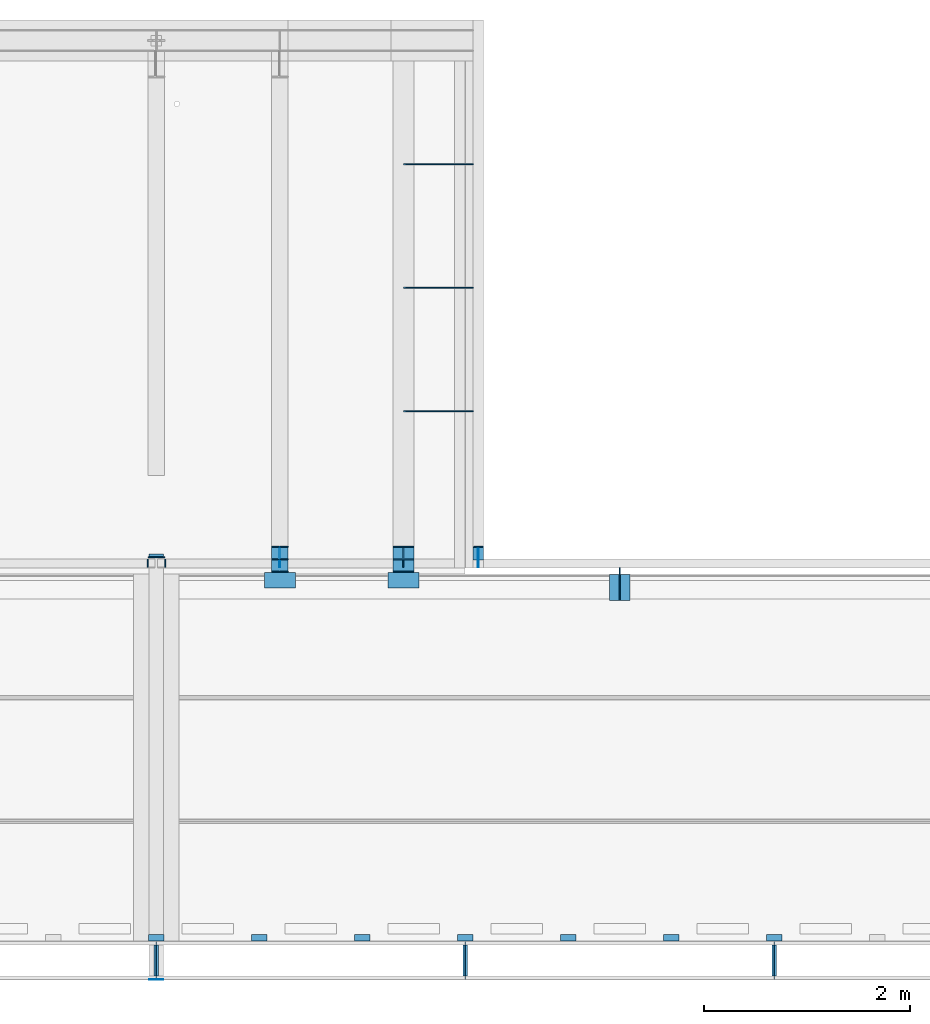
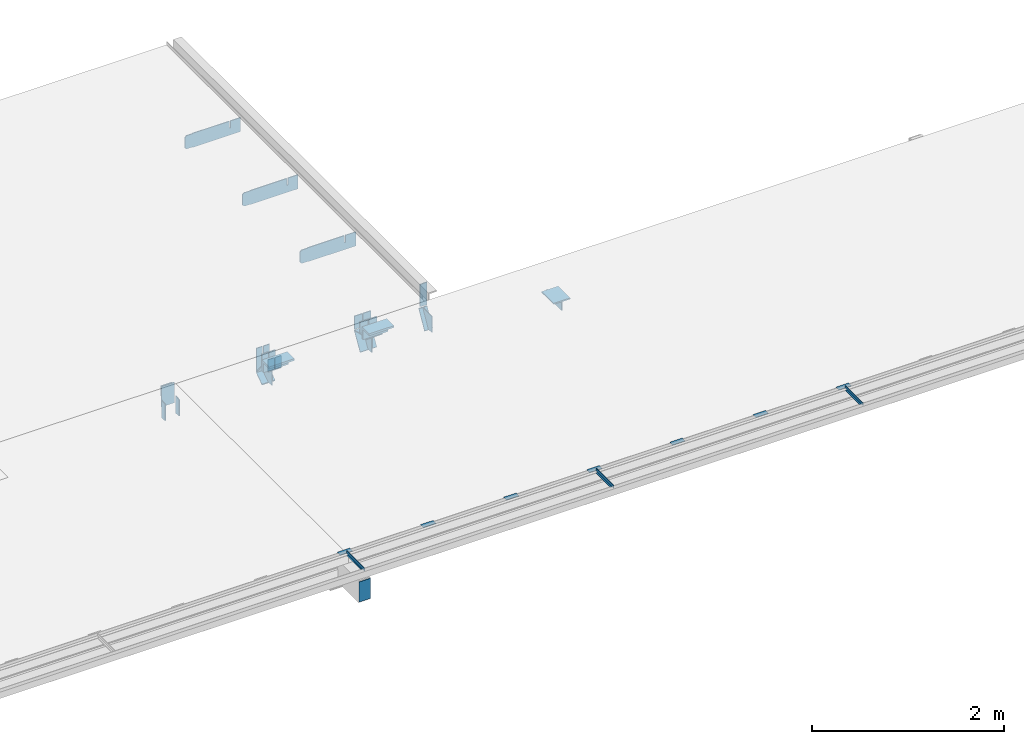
# One storey, part 4 of 13: 45 beams.
"""IFC2X3 building model written with IfcOpenShell, lengths in millimetres."""

from ifc_helpers import new_model, entity, si_unit, converted_unit, derived_unit, direction, frame, origin_with_axes, place, context, subcontext, project, spatial, faceted_brep, material, type_object, element, save


model = new_model("IFC2X3")

# Units and contexts
model_context = context("Model", 3, precision=0.01, world=frame((0.0, 4.29681676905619e-09, 0.0)), true_north=direction((4.01073788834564e-13, 1.0)))
plan_context = context("Plan", 3, precision=0.01, world=frame((0.0, 4.29681676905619e-09, 0.0)), true_north=direction((4.01073788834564e-13, 1.0)))
body_context = subcontext(model_context, "Body", "Model", "MODEL_VIEW")
ifc_project = project(units=[converted_unit("PLANEANGLEUNIT", "DEGREE", entity("IfcPositiveLengthMeasure", 0.0174532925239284), si_unit("PLANEANGLEUNIT", "RADIAN"), dimensions=[0, 0, 0, 0, 0, 0, 0]), si_unit("AREAUNIT", "SQUARE_METRE"), si_unit("LENGTHUNIT", "METRE", prefix="MILLI"), si_unit("MASSUNIT", "GRAM", prefix="KILO"), si_unit("POWERUNIT", "WATT"), si_unit("PRESSUREUNIT", "PASCAL", prefix="KILO"), si_unit("FORCEUNIT", "NEWTON", prefix="KILO"), si_unit("ELECTRICVOLTAGEUNIT", "VOLT"), si_unit("ELECTRICCURRENTUNIT", "AMPERE"), si_unit("THERMODYNAMICTEMPERATUREUNIT", "DEGREE_CELSIUS"), si_unit("TIMEUNIT", "SECOND"), si_unit("VOLUMEUNIT", "CUBIC_METRE"), derived_unit("LINEARVELOCITYUNIT", [(si_unit("LENGTHUNIT", "METRE"), 1), (si_unit("TIMEUNIT", "SECOND"), -1)]), derived_unit("VOLUMETRICFLOWRATEUNIT", [(si_unit("VOLUMEUNIT", "CUBIC_METRE"), 1), (si_unit("TIMEUNIT", "SECOND"), -1)]), derived_unit("THERMALTRANSMITTANCEUNIT", [(si_unit("POWERUNIT", "WATT"), 1), (si_unit("THERMODYNAMICTEMPERATUREUNIT", "KELVIN"), -1), (si_unit("AREAUNIT", "SQUARE_METRE"), -1)]), derived_unit("SOUNDPRESSUREUNIT", [(si_unit("PRESSUREUNIT", "PASCAL"), 1)])], contexts=[model_context, plan_context])

# Site, building, storey
site_placement = place(None, frame((0.0, -4.29681676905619e-09, 0.0), z_axis=(0.0, 0.0, 1.0), x_axis=(1.0, 0.0, 0.0)))
site = spatial("IfcSite", under=ifc_project, at=site_placement, Name="Gardermoen", CompositionType="ELEMENT")
building_placement = place(site_placement, frame((0.0, 4.29681676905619e-09, 0.0), z_axis=(0.0, 0.0, 1.0), x_axis=(1.0, 0.0, 0.0)))
building = spatial("IfcBuilding", under=site, at=building_placement, Name="TG", CompositionType="ELEMENT")
storey_placement = place(building_placement, origin_with_axes())
storey = spatial("IfcBuildingStorey", under=building, at=storey_placement, Name="G", CompositionType="ELEMENT", Elevation=0.0)

# Beams
ifc_material_1 = material(Name="STEEL/S355")
beam_type_1 = type_object("IfcBeamType", Name="PL10*110", PredefinedType="NOTDEFINED")
beam_1_placement = place(storey_placement, frame((335500.0, 462179.995625, 213170.0), z_axis=(0.0, 0.0, 1.0), x_axis=(0.0, -1.0, 0.0)))
element("IfcBeam", 1, at=beam_1_placement, inside=storey, type_object=beam_type_1, material=ifc_material_1, Name="STÅLBJELKE", ObjectType="PL10*110", context=body_context, shape_type="Brep", body=[
    faceted_brep([(5.82076609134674e-11, -5.0, 2.91038304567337e-11), (0.0, -5.0, 80.0), (0.0, 5.0, 80.0), (5.82076609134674e-11, 5.0, 2.91038304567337e-11), (65.0, -5.0, 80.0), (65.0, 5.0, 80.0), (65.0, -5.0, 110.0), (65.0, 5.0, 110.0), (315.0, -5.0, 110.0), (315.0, 5.0, 110.0), (315.0, -5.0, 0.0), (315.0, 5.0, 0.0)], [[[0, 1, 2, 3]], [[1, 4, 5, 2]], [[4, 6, 7, 5]], [[6, 8, 9, 7]], [[8, 10, 11, 9]], [[10, 0, 3, 11]], [[5, 7, 9, 11, 3, 2]], [[10, 8, 6, 4, 1, 0]]]),
])
ifc_material_2 = material(Name="STEEL/S355J0")
beam_type_2 = type_object("IfcBeamType", Name="PL5*140", PredefinedType="NOTDEFINED")
beam_2_placement = place(storey_placement, frame((331000.000872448, 458182.5, 213293.0), z_axis=(1.0, 0.0, 0.0), x_axis=(0.0, 0.0, 1.0)))
element("IfcBeam", 2, at=beam_2_placement, inside=storey, type_object=beam_type_2, material=ifc_material_2, Name="STÅLBJELKE", ObjectType="PL5*140", context=body_context, shape_type="Brep", body=[
    faceted_brep([(0.0, 2.5, -70.0), (0.0, 2.5, 70.0), (257.0, 2.5, 70.0), (257.0, 2.5, -70.0), (0.0, -2.5, 70.0), (257.0, -2.5, 70.0), (0.0, -2.5, -70.0), (257.0, -2.5, -70.0)], [[[0, 1, 2, 3]], [[1, 4, 5, 2]], [[4, 6, 7, 5]], [[6, 0, 3, 7]], [[5, 7, 3, 2]], [[6, 4, 1, 0]]]),
])
beam_type_3 = type_object("IfcBeamType", Name="PL100*10", PredefinedType="NOTDEFINED")
beam_3_placement = place(storey_placement, frame((334124.999765, 462260.648342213, 213162.470047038), z_axis=(1.0, 0.0, 0.0), x_axis=(0.0, 0.494009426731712, 0.86945654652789)))
element("IfcBeam", 3, at=beam_3_placement, inside=storey, type_object=beam_type_3, material=ifc_material_1, Name="STÅLBJELKE", ObjectType="PL100*10", context=body_context, shape_type="Brep", body=[
    faceted_brep([(8.34678317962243, -0.257509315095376, 50.0), (8.34678317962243, -0.257509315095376, -50.0), (9.64064383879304e-10, -5.0, -50.0000000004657), (-1.04409991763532e-09, -5.0, 50.0000000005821), (5.89175414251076, 5.00000000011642, 50.0), (5.89175414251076, 5.00000000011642, -50.0), (253.031621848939, -5.00000000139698, 50.0), (253.031621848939, -5.00000000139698, -50.0), (247.349803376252, 4.99999999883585, -50.0), (247.349803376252, 4.99999999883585, 50.0)], [[[0, 1, 2, 3]], [[4, 5, 1, 0]], [[6, 7, 8, 9]], [[7, 6, 3, 2]], [[8, 7, 2, 1, 5]], [[9, 8, 5, 4]], [[6, 9, 4, 0, 3]]]),
])
beam_type_4 = type_object("IfcBeamType", Name="PL10*179", PredefinedType="NOTDEFINED")
for number, where, z_axis, x_axis in (
    (4, (333499.999765, 463700.004375, 213380.0), (0.0, 0.0, 1.0), (1.0, 0.0, 0.0)),
    (5, (333499.999765, 464900.004375, 213380.0), (0.0, 0.0, 1.0), (1.0, 0.0, 0.0)),
    (6, (333499.999765, 466100.004375, 213380.0), (0.0, 0.0, 1.0), (1.0, 0.0, 0.0)),
):
    element("IfcBeam", number, at=place(storey_placement, frame(where, z_axis=z_axis, x_axis=x_axis)), inside=storey, type_object=beam_type_4, material=ifc_material_1, Name="STÅLBJELKE", ObjectType="PL10*179", context=body_context, shape_type="Brep", body=[
        faceted_brep([(439.5, -5.0, 179.0), (439.5, -5.0, 90.0), (439.5, 5.0, 90.0), (439.5, 5.0, 179.0), (450.5, -5.0, 90.0), (450.5, 5.0, 90.0), (450.5, -5.0, 179.0), (450.5, 5.0, 179.0), (0.0, -5.0, 175.0), (0.0, -5.0, 179.0), (0.0, 5.0, 179.0), (0.0, 5.0, 175.0), (-75.5, -5.0, 175.0), (-75.5, 5.0, 175.0), (-95.5, -5.0, 155.0), (-95.5, 5.0, 155.0), (-95.5, -5.0, 25.0), (-95.5, 5.0, 25.0), (-75.5, -5.0, 5.0), (-75.5, 5.0, 5.0), (0.0, -5.0, 5.0), (0.0, 5.0, 5.0), (5.82076609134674e-11, -5.0, 2.91038304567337e-11), (5.82076609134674e-11, 5.0, 2.91038304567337e-11), (575.0, -5.0, 0.0), (575.0, 5.0, 0.0), (575.0, -5.0, 179.0), (575.0, 5.0, 179.0), (395.0, -5.0, 179.0), (495.0, -5.0, 179.0), (395.0, 5.0, 179.0), (495.0, 5.0, 179.0)], [[[0, 1, 2, 3]], [[4, 5, 2, 1]], [[6, 7, 5, 4]], [[8, 9, 10, 11]], [[12, 8, 11, 13]], [[14, 12, 13, 15]], [[16, 14, 15, 17]], [[18, 16, 17, 19]], [[20, 18, 19, 21]], [[22, 20, 21, 23]], [[24, 22, 23, 25]], [[26, 24, 25, 27]], [[1, 0, 28, 9, 8, 12, 14, 16, 18, 20, 22, 24, 26, 29, 6, 4]], [[30, 10, 9, 28, 0, 3]], [[31, 27, 25, 23, 21, 19, 17, 15, 13, 11, 10, 30, 3, 2, 5, 7]], [[29, 26, 27, 31, 7, 6]]]),
    ])
beam_type_5 = type_object("IfcBeamType", Name="PL200*10", PredefinedType="NOTDEFINED")
beam_4_placement = place(storey_placement, frame((333399.999765, 462260.699160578, 213162.557419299), z_axis=(1.0, 0.0, 0.0), x_axis=(0.0, 0.511483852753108, 0.859292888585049)))
element("IfcBeam", 7, at=beam_4_placement, inside=storey, type_object=beam_type_5, material=ifc_material_1, Name="STÅLBJELKE", ObjectType="PL200*10", context=body_context, shape_type="Brep", body=[
    faceted_brep([(8.24921168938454, -0.0897550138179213, 100.0), (8.24921168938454, -0.0897550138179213, -100.0), (0.0, -5.0, -100.0), (0.0, -5.0, 100.0), (5.74597768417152, 5.0, 100.0), (5.74597768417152, 5.0, -100.0), (244.386986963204, -5.00000000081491, 100.0), (244.386986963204, -5.00000000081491, -100.0), (238.43460612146, 4.99999999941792, -100.0), (238.43460612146, 4.99999999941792, 100.0)], [[[0, 1, 2, 3]], [[4, 5, 1, 0]], [[6, 7, 8, 9]], [[7, 6, 3, 2]], [[8, 7, 2, 1, 5]], [[9, 8, 5, 4]], [[6, 9, 4, 0, 3]]]),
])
beam_5_placement = place(storey_placement, frame((333399.999765, 462266.257734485, 213404.838086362), z_axis=(1.0, 0.0, 0.0), x_axis=(0.0, 0.967617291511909, -0.252421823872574)))
element("IfcBeam", 8, at=beam_5_placement, inside=storey, type_object=beam_type_5, material=ifc_material_1, Name="STÅLBJELKE", ObjectType="PL200*10", context=body_context, shape_type="Brep", body=[
    faceted_brep([(-1.28288105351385, 5.00000000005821, -100.0), (-1.28288105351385, 5.00000000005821, 100.0), (116.2399456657, 4.99999999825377, 100.0), (116.2399456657, 4.99999999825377, -100.0), (0.0, -5.0, 100.0), (118.848640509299, -5.00000000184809, 100.0), (0.0, -5.0, -100.0), (118.848640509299, -5.00000000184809, -100.0)], [[[0, 1, 2, 3]], [[1, 4, 5, 2]], [[4, 6, 7, 5]], [[6, 0, 3, 7]], [[5, 7, 3, 2]], [[6, 4, 1, 0]]]),
])
beam_6_placement = place(storey_placement, frame((333399.999765, 462137.995625, 213405.0), z_axis=(1.0, 0.0, 0.0), x_axis=(0.0, 1.0, 0.0)))
element("IfcBeam", 9, at=beam_6_placement, inside=storey, type_object=beam_type_5, material=ifc_material_1, Name="STÅLBJELKE", ObjectType="PL200*10", context=body_context, shape_type="Brep", body=[
    faceted_brep([(0.0, 5.0, -100.0), (0.0, 5.0, 100.0), (128.282880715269, 5.0, 100.0), (128.282880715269, 5.0, -100.0), (0.0, -5.0, 100.0), (127.000000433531, -5.0, 100.0), (0.0, -5.0, -100.0), (127.000000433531, -5.0, -100.0)], [[[0, 1, 2, 3]], [[1, 4, 5, 2]], [[4, 6, 7, 5]], [[6, 0, 3, 7]], [[5, 7, 3, 2]], [[6, 4, 1, 0]]]),
])
beam_type_6 = type_object("IfcBeamType", Name="PL170*10", PredefinedType="NOTDEFINED")
for number, where, z_axis, x_axis in (
    (10, (333395.499765, 462384.995625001, 213470.0), (0.0, 0.0, 1.0), (-1.0, 0.0, 0.0)),
    (11, (333404.500703, 462384.995625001, 213470.0), (0.0, 0.0, 1.0), (1.0, 0.0, 0.0)),
):
    element("IfcBeam", number, at=place(storey_placement, frame(where, z_axis=z_axis, x_axis=x_axis)), inside=storey, type_object=beam_type_6, material=ifc_material_1, Name="STÅLBJELKE", ObjectType="PL170*10", context=body_context, shape_type="Brep", body=[
        faceted_brep([(0.0, 5.0, -85.0), (0.0, 5.0, 85.0), (95.4990620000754, 5.0, 85.0), (95.4990620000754, 5.0, -85.0), (0.0, -5.0, 85.0), (95.4990620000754, -5.0, 85.0), (0.0, -5.0, -85.0), (95.4990620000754, -5.0, -85.0)], [[[0, 1, 2, 3]], [[1, 4, 5, 2]], [[4, 6, 7, 5]], [[6, 0, 3, 7]], [[5, 7, 3, 2]], [[6, 4, 1, 0]]]),
    ])
beam_type_7 = type_object("IfcBeamType", Name="PL145*10", PredefinedType="NOTDEFINED")
for number, where, z_axis, x_axis in (
    (12, (333395.499765, 462264.895625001, 213482.5), (0.0, 0.0, 1.0), (-1.0, 0.0, 0.0)),
    (13, (333395.499765, 462142.994375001, 213482.5), (0.0, 0.0, 1.0), (-1.0, 0.0, 0.0)),
    (14, (333404.500703, 462264.895625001, 213482.5), (0.0, 0.0, 1.0), (1.0, 0.0, 0.0)),
    (15, (333404.500703, 462142.994375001, 213482.5), (0.0, 0.0, 1.0), (1.0, 0.0, 0.0)),
):
    element("IfcBeam", number, at=place(storey_placement, frame(where, z_axis=z_axis, x_axis=x_axis)), inside=storey, type_object=beam_type_7, material=ifc_material_1, Name="STÅLBJELKE", ObjectType="PL145*10", context=body_context, shape_type="Brep", body=[
        faceted_brep([(0.0, 5.0, -72.5), (0.0, 5.0, 72.5), (95.4990620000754, 5.0, 72.5), (95.4990620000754, 5.0, -72.5), (0.0, -5.0, 72.5), (95.4990620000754, -5.0, 72.5), (0.0, -5.0, -72.5), (95.4990620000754, -5.0, -72.5)], [[[0, 1, 2, 3]], [[1, 4, 5, 2]], [[4, 6, 7, 5]], [[6, 0, 3, 7]], [[5, 7, 3, 2]], [[6, 4, 1, 0]]]),
    ])
beam_type_8 = type_object("IfcBeamType", Name="PL10*189", PredefinedType="NOTDEFINED")
beam_7_placement = place(storey_placement, frame((333399.999765, 462378.358147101, 213370.0), z_axis=(0.0, 0.0, -1.0), x_axis=(0.0, -1.0, 0.0)))
element("IfcBeam", 16, at=beam_7_placement, inside=storey, type_object=beam_type_8, material=ifc_material_1, Name="STÅLBJELKE", ObjectType="PL10*189", context=body_context, shape_type="Brep", body=[
    faceted_brep([(5.82076609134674e-11, -5.0, 2.91038304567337e-11), (119.016479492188, -5.0, 199.947677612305), (119.016479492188, 5.0, 199.947677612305), (5.82076609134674e-11, 5.0, 2.91038304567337e-11), (188.862518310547, -5.0, 194.360000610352), (188.862518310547, 5.0, 194.360000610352), (188.862518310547, -5.0, 0.0), (188.862518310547, 5.0, 0.0)], [[[0, 1, 2, 3]], [[1, 4, 5, 2]], [[4, 6, 7, 5]], [[6, 0, 3, 7]], [[5, 7, 3, 2]], [[6, 4, 1, 0]]]),
])
beam_type_9 = type_object("IfcBeamType", Name="L150*150*25", PredefinedType="NOTDEFINED")
for number, where, z_axis, x_axis in (
    (17, (333549.999765, 462062.995625, 213510.0), (0.0, 0.0, -1.0), (-1.0, 0.0, 0.0)),
    (18, (332349.999765, 462062.995625, 213510.0), (0.0, 0.0, -1.0), (-1.0, 0.0, 0.0)),
):
    element("IfcBeam", number, at=place(storey_placement, frame(where, z_axis=z_axis, x_axis=x_axis)), inside=storey, type_object=beam_type_9, material=ifc_material_1, Name="STÅLBJELKE", ObjectType="L150*150*25", context=body_context, shape_type="Brep", body=[
        faceted_brep([(0.0, 75.0, -75.0), (0.0, 75.0, 75.0), (300.0, 75.0, 75.0), (300.0, 75.0, -75.0), (0.0, 50.0, 75.0), (300.0, 50.0, 75.0), (0.0, 50.0, -50.0), (300.0, 50.0, -50.0), (0.0, -75.0, -50.0), (300.0, -75.0, -50.0), (0.0, -75.0, -75.0), (300.0, -75.0, -75.0)], [[[0, 1, 2, 3]], [[1, 4, 5, 2]], [[4, 6, 7, 5]], [[6, 8, 9, 7]], [[8, 10, 11, 9]], [[10, 0, 3, 11]], [[5, 7, 9, 11, 3, 2]], [[10, 8, 6, 4, 1, 0]]]),
    ])
beam_type_10 = type_object("IfcBeamType", Name="PL160*10", PredefinedType="NOTDEFINED")
beam_8_placement = place(storey_placement, frame((332199.999765, 462137.995625, 213405.0), z_axis=(1.0, 0.0, 0.0), x_axis=(0.0, 1.0, 0.0)))
element("IfcBeam", 19, at=beam_8_placement, inside=storey, type_object=beam_type_10, material=ifc_material_1, Name="STÅLBJELKE", ObjectType="PL160*10", context=body_context, shape_type="Brep", body=[
    faceted_brep([(0.0, 5.0, -80.0), (0.0, 5.0, 80.0), (131.903864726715, 5.0, 80.0), (131.903864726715, 5.0, -80.0), (0.0, -5.0, 80.0), (127.000000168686, -5.0, 80.0), (0.0, -5.0, -80.0), (127.000000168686, -5.0, -80.0)], [[[0, 1, 2, 3]], [[1, 4, 5, 2]], [[4, 6, 7, 5]], [[6, 0, 3, 7]], [[5, 7, 3, 2]], [[6, 4, 1, 0]]]),
])
beam_9_placement = place(storey_placement, frame((332199.999765, 462262.140302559, 213164.104526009), z_axis=(1.0, 0.0, 0.0), x_axis=(0.0, 0.820905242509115, 0.57106442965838)))
element("IfcBeam", 20, at=beam_9_placement, inside=storey, type_object=beam_type_10, material=ifc_material_1, Name="STÅLBJELKE", ObjectType="PL160*10", context=body_context, shape_type="Brep", body=[
    faceted_brep([(6.95652103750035, 5.0, -80.0), (6.95652103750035, 5.0, 80.0), (147.045771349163, 4.99999999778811, 80.0), (147.045771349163, 4.99999999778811, -80.0), (0.0, -5.0, 80.0), (140.089250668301, -5.00000000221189, 80.0), (0.0, -5.0, -80.0), (140.089250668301, -5.00000000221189, -80.0)], [[[0, 1, 2, 3]], [[1, 4, 5, 2]], [[4, 6, 7, 5]], [[6, 0, 3, 7]], [[5, 7, 3, 2]], [[6, 4, 1, 0]]]),
])
beam_10_placement = place(storey_placement, frame((332199.999765, 462268.948827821, 213403.061402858), z_axis=(1.0, 0.0, 0.0), x_axis=(0.0, 0.612280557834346, -0.79064057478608)))
element("IfcBeam", 21, at=beam_10_placement, inside=storey, type_object=beam_type_10, material=ifc_material_1, Name="STÅLBJELKE", ObjectType="PL160*10", context=body_context, shape_type="Brep", body=[
    faceted_brep([(-4.90386462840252, 4.99999999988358, -80.0), (-4.90386462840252, 4.99999999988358, 80.0), (174.909349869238, 5.00000000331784, 80.0), (174.909349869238, 5.00000000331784, -80.0), (0.0, -5.0, 80.0), (187.822393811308, -4.99999999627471, 80.0), (0.0, -5.0, -80.0), (187.822393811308, -4.99999999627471, -80.0)], [[[0, 1, 2, 3]], [[1, 4, 5, 2]], [[4, 6, 7, 5]], [[6, 0, 3, 7]], [[5, 7, 3, 2]], [[6, 4, 1, 0]]]),
])
beam_type_11 = type_object("IfcBeamType", Name="PL307*10", PredefinedType="NOTDEFINED")
for number, where, z_axis, x_axis in (
    (22, (332196.249765, 462384.995625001, 213405.0), (0.0, 0.0, 1.0), (-1.0, 0.0, 0.0)),
    (23, (332203.750703, 462384.995625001, 213405.0), (0.0, 0.0, 1.0), (1.0, 0.0, 0.0)),
):
    element("IfcBeam", number, at=place(storey_placement, frame(where, z_axis=z_axis, x_axis=x_axis)), inside=storey, type_object=beam_type_11, material=ifc_material_1, Name="STÅLBJELKE", ObjectType="PL307*10", context=body_context, shape_type="Brep", body=[
        faceted_brep([(0.0, 5.0, -153.5), (0.0, 5.0, 153.5), (76.2490620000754, 5.0, 153.5), (76.2490620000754, 5.0, -153.5), (0.0, -5.0, 153.5), (76.2490620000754, -5.0, 153.5), (0.0, -5.0, -153.5), (76.2490620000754, -5.0, -153.5)], [[[0, 1, 2, 3]], [[1, 4, 5, 2]], [[4, 6, 7, 5]], [[6, 0, 3, 7]], [[5, 7, 3, 2]], [[6, 4, 1, 0]]]),
    ])
beam_type_12 = type_object("IfcBeamType", Name="PL8*190", PredefinedType="NOTDEFINED")
beam_11_placement = place(storey_placement, frame((332199.999765, 462189.495625, 213384.36), z_axis=(0.0, 1.0, 0.0), x_axis=(0.0, 0.0, -1.0)))
element("IfcBeam", 24, at=beam_11_placement, inside=storey, type_object=beam_type_12, material=ifc_material_1, Name="STÅLBJELKE", ObjectType="PL8*190", context=body_context, shape_type="Brep", body=[
    faceted_brep([(0.0, -4.0, 0.0), (-6.03999996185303, -4.0, 75.5), (-6.03999996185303, 4.0, 75.5), (0.0, 4.0, 0.0), (-15.6400003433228, -4.0, 75.5), (-15.6400003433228, 4.0, 75.5), (132.4169921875, -4.0, 190.156936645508), (132.4169921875, 4.0, 190.156936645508), (212.178329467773, -4.0, 75.5), (212.178329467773, 4.0, 75.5), (214.759994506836, -4.0, 75.5), (214.759994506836, 4.0, 75.5), (208.720001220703, -4.0, 0.0), (208.720001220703, 4.0, 0.0)], [[[0, 1, 2, 3]], [[1, 4, 5, 2]], [[4, 6, 7, 5]], [[6, 8, 9, 7]], [[8, 10, 11, 9]], [[10, 12, 13, 11]], [[12, 0, 3, 13]], [[5, 7, 9, 11, 13, 3, 2]], [[12, 10, 8, 6, 4, 1, 0]]]),
])
beam_type_13 = type_object("IfcBeamType", Name="PL148.5*10", PredefinedType="NOTDEFINED")
for number, where, z_axis, x_axis in (
    (25, (332196.249765, 462142.995625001, 213484.25), (0.0, 0.0, 1.0), (-1.0, 0.0, 0.0)),
    (26, (332203.750703, 462142.995625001, 213484.25), (0.0, 0.0, 1.0), (1.0, 0.0, 0.0)),
    (27, (332196.249765, 462264.895625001, 213484.25), (0.0, 0.0, 1.0), (-1.0, 0.0, 0.0)),
    (28, (332203.750703, 462264.895625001, 213484.25), (0.0, 0.0, 1.0), (1.0, 0.0, 0.0)),
):
    element("IfcBeam", number, at=place(storey_placement, frame(where, z_axis=z_axis, x_axis=x_axis)), inside=storey, type_object=beam_type_13, material=ifc_material_1, Name="STÅLBJELKE", ObjectType="PL148.5*10", context=body_context, shape_type="Brep", body=[
        faceted_brep([(0.0, 5.0, -74.25), (0.0, 5.0, 74.25), (76.2490620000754, 5.0, 74.25), (76.2490620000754, 5.0, -74.25), (0.0, -5.0, 74.25), (76.2490620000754, -5.0, 74.25), (0.0, -5.0, -74.25), (76.2490620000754, -5.0, -74.25)], [[[0, 1, 2, 3]], [[1, 4, 5, 2]], [[4, 6, 7, 5]], [[6, 0, 3, 7]], [[5, 7, 3, 2]], [[6, 4, 1, 0]]]),
    ])
beam_type_14 = type_object("IfcBeamType", Name="PL8*189", PredefinedType="NOTDEFINED")
beam_12_placement = place(storey_placement, frame((334124.999765, 462378.494193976, 213380.0), z_axis=(0.0, 0.0, -1.0), x_axis=(0.0, -1.0, 0.0)))
element("IfcBeam", 29, at=beam_12_placement, inside=storey, type_object=beam_type_14, material=ifc_material_1, Name="STÅLBJELKE", ObjectType="PL8*189", context=body_context, shape_type="Brep", body=[
    faceted_brep([(0.0, -4.0, 0.0), (119.282554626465, -4.0, 209.937286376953), (119.282554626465, 4.0, 209.937286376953), (0.0, 4.0, 0.0), (188.998565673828, -4.0, 204.360000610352), (188.998565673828, 4.0, 204.360000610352), (188.998565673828, -4.0, 0.0), (188.998565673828, 4.0, 0.0)], [[[0, 1, 2, 3]], [[1, 4, 5, 2]], [[4, 6, 7, 5]], [[6, 0, 3, 7]], [[5, 7, 3, 2]], [[6, 4, 1, 0]]]),
])
beam_type_15 = type_object("IfcBeamType", Name="PL10*86", PredefinedType="NOTDEFINED")
beam_13_placement = place(storey_placement, frame((334088.999765, 462384.995625, 213680.7), z_axis=(0.0499376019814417, 0.0, -0.998752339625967), x_axis=(0.998752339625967, 0.0, 0.0499376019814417)))
element("IfcBeam", 30, at=beam_13_placement, inside=storey, type_object=beam_type_15, material=ifc_material_1, Name="STÅLBJELKE", ObjectType="PL10*86", context=body_context, shape_type="Brep", body=[
    faceted_brep([(5.82076609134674e-11, -5.0, 2.91038304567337e-11), (-14.0524454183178, -5.0, 281.048919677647), (-14.0524454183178, 5.0, 281.048919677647), (5.82076609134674e-11, 5.0, 2.91038304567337e-11), (71.6255264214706, -5.0, 289.638183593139), (71.6255264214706, 5.0, 289.638183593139), (86.1074295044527, -5.0, -4.97675500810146e-09), (86.1074295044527, 5.0, -4.97675500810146e-09)], [[[0, 1, 2, 3]], [[1, 4, 5, 2]], [[4, 6, 7, 5]], [[6, 0, 3, 7]], [[5, 7, 3, 2]], [[6, 4, 1, 0]]]),
])
beam_type_16 = type_object("IfcBeamType", Name="PL10*160", PredefinedType="NOTDEFINED")
beam_14_placement = place(storey_placement, frame((331000.000002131, 462285.999973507, 213291.5), z_axis=(-1.0, 0.0, 0.0), x_axis=(0.0, 0.0, 1.0)))
element("IfcBeam", 31, at=beam_14_placement, inside=storey, type_object=beam_type_16, material=ifc_material_2, Name="STÅLBJELKE", ObjectType="PL10*160", context=body_context, shape_type="Brep", body=[
    faceted_brep([(0.0, 5.0, -80.0), (0.0, 5.0, 80.0), (260.0, 5.0, 80.0), (260.0, 5.0, -80.0), (0.0, -5.0, 80.0), (260.0, -5.0, 80.0), (0.0, -5.0, -80.0), (260.0, -5.0, -80.0)], [[[0, 1, 2, 3]], [[1, 4, 5, 2]], [[4, 6, 7, 5]], [[6, 0, 3, 7]], [[5, 7, 3, 2]], [[6, 4, 1, 0]]]),
])
beam_type_17 = type_object("IfcBeamType", Name="25*140", PredefinedType="NOTDEFINED")
beam_15_placement = place(storey_placement, frame((330999.999125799, 462303.499965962, 213541.000007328), z_axis=(0.0, -1.0, 0.0), x_axis=(0.0, 0.0, -1.0)))
element("IfcBeam", 32, at=beam_15_placement, inside=storey, type_object=beam_type_17, material=ifc_material_1, Name="STÅLBJELKE", ObjectType="25*140", context=body_context, shape_type="Brep", body=[
    faceted_brep([(5.82076609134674e-10, 69.9999999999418, -12.5000000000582), (6.98491930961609e-10, 69.9999999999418, 12.5), (129.999999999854, 69.9999999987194, 12.5000000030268), (129.999999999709, 69.9999999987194, -12.4999999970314), (-6.11180439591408e-10, -70.0000000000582, 12.5), (129.999999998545, -70.0000000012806, 12.5000000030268), (-7.27595761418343e-10, -70.0000000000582, -12.5000000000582), (129.999999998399, -70.0000000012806, -12.4999999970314)], [[[0, 1, 2, 3]], [[1, 4, 5, 2]], [[4, 6, 7, 5]], [[6, 0, 3, 7]], [[5, 7, 3, 2]], [[6, 4, 1, 0]]]),
])
beam_type_18 = type_object("IfcBeamType", Name="PL15*200", PredefinedType="NOTDEFINED")
beam_16_placement = place(storey_placement, frame((335600.0, 462114.995625, 213287.5), z_axis=(-1.0, 0.0, 0.0), x_axis=(0.0, -1.0, 0.0)))
element("IfcBeam", 33, at=beam_16_placement, inside=storey, type_object=beam_type_18, material=ifc_material_1, Name="STÅLBJELKE", ObjectType="PL15*200", context=body_context, shape_type="Brep", body=[
    faceted_brep([(0.0, -7.5, 0.0), (0.0, -7.5, 200.0), (0.0, 7.5, 200.0), (0.0, 7.5, 0.0), (250.0, -7.5, 200.0), (250.0, 7.5, 200.0), (250.0, -7.5, 0.0), (250.0, 7.5, 0.0)], [[[0, 1, 2, 3]], [[1, 4, 5, 2]], [[4, 6, 7, 5]], [[6, 0, 3, 7]], [[5, 7, 3, 2]], [[6, 4, 1, 0]]]),
])
beam_type_19 = type_object("IfcBeamType", Name="T40", PredefinedType="NOTDEFINED")
for number, where, z_axis, x_axis in (
    (34, (337000.0, 458184.0, 213680.131614), (0.0, 0.0, -1.0), (0.0, 1.0, 0.0)),
    (35, (334000.0, 458184.0, 213680.131614), (0.0, 0.0, -1.0), (0.0, 1.0, 0.0)),
    (36, (331000.0, 458184.0, 213680.131614), (0.0, 0.0, -1.0), (0.0, 1.0, 0.0)),
):
    element("IfcBeam", number, at=place(storey_placement, frame(where, z_axis=z_axis, x_axis=x_axis)), inside=storey, type_object=beam_type_19, material=ifc_material_1, Name="STÅLBJELKE", ObjectType="T40", context=body_context, shape_type="Brep", body=[
        faceted_brep([(35.9999576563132, -2.5, 15.0), (35.9999798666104, 2.5, 15.0), (0.0, 2.5, 15.0), (0.0, -2.5, 15.0), (35.9999602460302, -19.9999999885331, 20.0006316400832), (35.9997825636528, 20.0, 20.0), (35.9998799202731, 20.0, 15.0), (36.0000576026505, -20.0, 15.0), (0.0, -2.5, -20.0), (0.0, 2.5, -20.0), (372.0, 2.5, -20.0), (372.0, -2.5, -20.0), (372.0, 2.5, 15.0), (372.000315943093, -2.49999997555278, 14.9992803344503), (336.000315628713, 2.5, 15.0), (336.000293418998, -2.5, 15.0), (336.000395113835, -20.0, 20.0), (336.000393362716, -20.0, 15.0), (336.000215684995, 20.0, 15.0), (336.000217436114, 20.0, 20.0)], [[[0, 1, 2, 3]], [[4, 5, 6, 1, 0, 7]], [[8, 9, 10, 11]], [[11, 10, 12, 13]], [[13, 12, 14, 15]], [[16, 17, 15, 14, 18, 19]], [[17, 16, 4, 7]], [[15, 17, 7, 0]], [[8, 11, 13, 15, 0, 3]], [[9, 8, 3, 2]], [[14, 12, 10, 9, 2, 1]], [[18, 14, 1, 6]], [[19, 18, 6, 5]], [[16, 19, 5, 4]]]),
    ])
beam_type_20 = type_object("IfcBeamType", Name="60*5", PredefinedType="NOTDEFINED")
for number, where, z_axis, x_axis in (
    (37, (336925.002562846, 458589.999997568, 213662.631638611), (0.0, -1.0, 0.0), (1.0, 0.0, 0.0)),
    (38, (335925.002562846, 458589.999997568, 213662.631638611), (0.0, -1.0, 0.0), (1.0, 0.0, 0.0)),
    (39, (334925.002562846, 458589.999997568, 213662.631638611), (0.0, -1.0, 0.0), (1.0, 0.0, 0.0)),
    (40, (333925.002562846, 458589.999997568, 213662.631638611), (0.0, -1.0, 0.0), (1.0, 0.0, 0.0)),
    (41, (332925.002562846, 458589.999997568, 213662.631638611), (0.0, -1.0, 0.0), (1.0, 0.0, 0.0)),
    (42, (331925.002562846, 458589.999997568, 213662.631638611), (0.0, -1.0, 0.0), (1.0, 0.0, 0.0)),
    (43, (330925.002562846, 458589.999997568, 213662.631638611), (0.0, -1.0, 0.0), (1.0, 0.0, 0.0)),
):
    element("IfcBeam", number, at=place(storey_placement, frame(where, z_axis=z_axis, x_axis=x_axis)), inside=storey, type_object=beam_type_20, material=ifc_material_1, Name="STÅLBJELKE", ObjectType="60*5", context=body_context, shape_type="Brep", body=[
        faceted_brep([(0.0, 2.5, -30.0), (0.0, 2.5, 30.0), (150.0, 2.5, 30.0), (150.0, 2.5, -30.0), (0.0, -2.5, 30.0), (150.0, -2.5, 30.0), (0.0, -2.5, -30.0), (150.0, -2.5, -30.0)], [[[0, 1, 2, 3]], [[1, 4, 5, 2]], [[4, 6, 7, 5]], [[6, 0, 3, 7]], [[5, 7, 3, 2]], [[6, 4, 1, 0]]]),
    ])
beam_type_21 = type_object("IfcBeamType", Name="PL10*76", PredefinedType="NOTDEFINED")
for number, where, z_axis, x_axis in (
    (44, (331085.0, 462264.995625, 213169.6), (0.0, -1.0, 0.0), (0.0, 0.0, 1.0)),
    (45, (330915.0, 462264.995625, 213169.6), (0.0, -1.0, 0.0), (0.0, 0.0, 1.0)),
):
    element("IfcBeam", number, at=place(storey_placement, frame(where, z_axis=z_axis, x_axis=x_axis)), inside=storey, type_object=beam_type_21, material=ifc_material_1, Name="STÅLBJELKE", ObjectType="PL10*76", context=body_context, shape_type="Brep", body=[
        faceted_brep([(5.82076609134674e-11, -5.0, 2.91038304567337e-11), (6.03999996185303, -5.0, 75.5), (6.03999996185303, 5.0, 75.5), (5.82076609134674e-11, 5.0, 2.91038304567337e-11), (214.759994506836, -5.0, 75.5), (214.759994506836, 5.0, 75.5), (220.800003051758, -5.0, 0.0), (220.800003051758, 5.0, 0.0)], [[[0, 1, 2, 3]], [[1, 4, 5, 2]], [[4, 6, 7, 5]], [[6, 0, 3, 7]], [[5, 7, 3, 2]], [[6, 4, 1, 0]]]),
    ])

save(model, "model.ifc")
